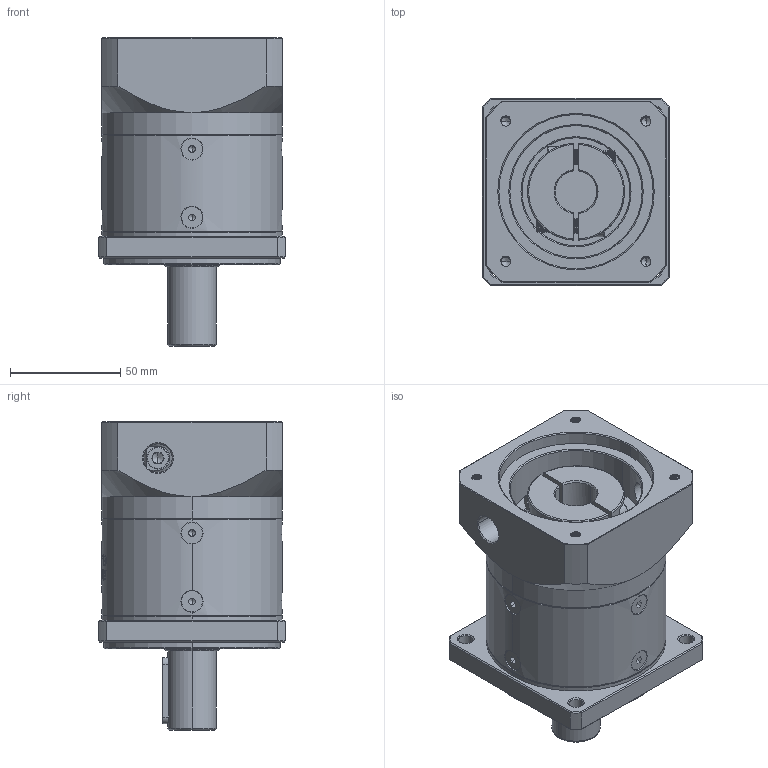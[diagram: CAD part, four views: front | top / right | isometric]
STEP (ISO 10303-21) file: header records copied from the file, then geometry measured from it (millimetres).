
FILE_DESCRIPTION (( 'STEP AP214' ), '1' );
FILE_NAME ('ZF080-D22-L1-P2-19-70-90-M5.step', '2023-08-19T05:31:27', ( '' ), ( '' ), 'SwSTEP 2.0', 'SolidWorks 2016', '' );
FILE_SCHEMA (( 'AUTOMOTIVE_DESIGN' ));
Length unit declared in the file: millimetre
Products named in the file (1): ZF080-D22-L1-P2-19-70-90-M5
Bounding box: 85 x 85 x 140 mm (x, y, z)
Volume: 534575.9 mm3; surface area: 86002.4 mm2
Topology: 13 solids, 13 shells, 2224 faces, 5832 edges, 3706 vertices
Faces by surface type: plane 1066, bspline 394, cylinder 390, cone 337, torus 37
Entity records: 119036 total; most frequent: CARTESIAN_POINT 44837, ORIENTED_EDGE 11604, DIRECTION 8600, EDGE_CURVE 5802, VERTEX_POINT 3706, LINE 3078, VECTOR 3078, AXIS2_PLACEMENT_3D 2761
